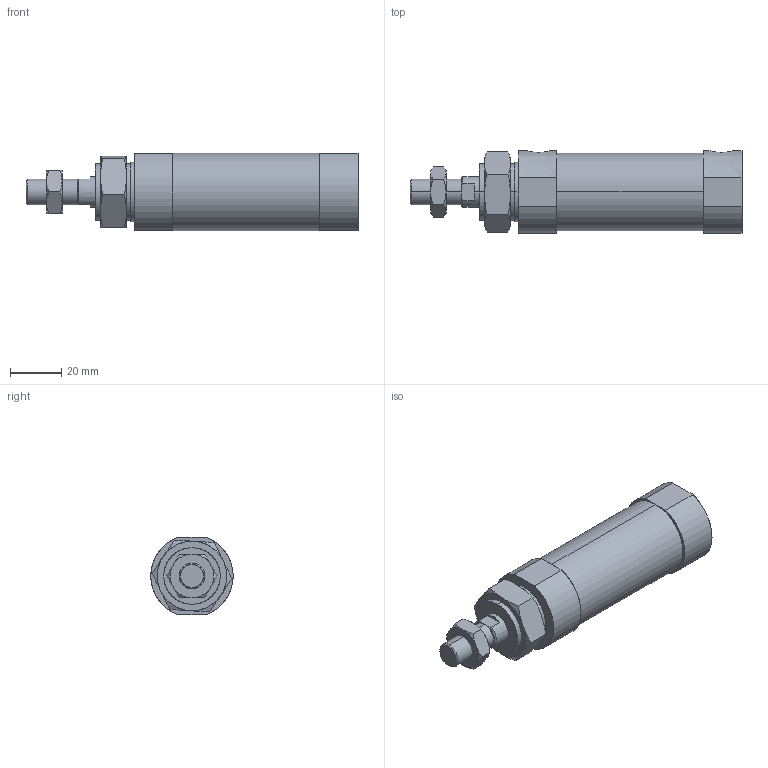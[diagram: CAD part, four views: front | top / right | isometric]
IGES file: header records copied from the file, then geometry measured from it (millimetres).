
Start section: SolidWorks IGES file using analytic representation for surfaces
Global section: file name: C:\Users\Toshiba\Desktop\JGND2-25-25-N.IGS; native system: SolidWorks 2014; preprocessor: SolidWorks 2014; author: Toshiba; date: 160804.103453; units: millimetre
Bounding box: 129 x 32 x 30 mm (x, y, z)
Surface area: 16277.7 mm2 (no closed solid volume)
Topology: 0 solids, 0 shells, 89 faces, 1592 edges, 1588 vertices
Faces by surface type: bspline 59, revolution 30
